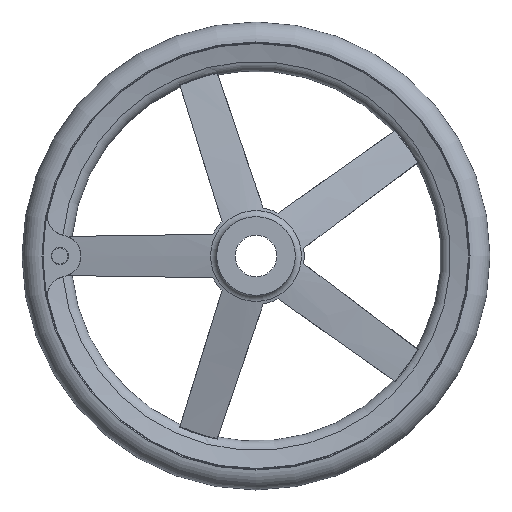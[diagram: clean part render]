
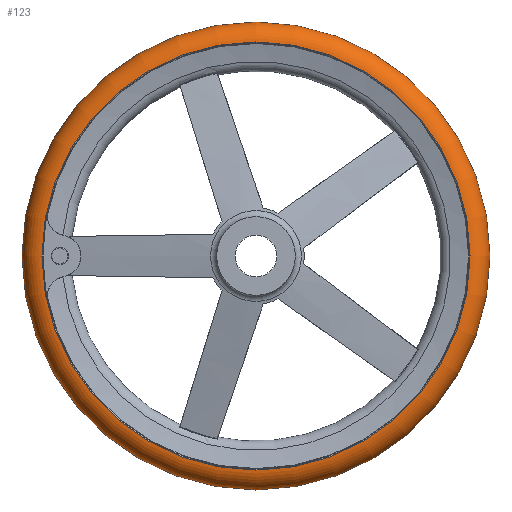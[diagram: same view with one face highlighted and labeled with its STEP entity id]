
A CAD part, left-side view. The second image highlights one B-rep face of the part: STEP entity #123.
In plain terms, the highlighted toroidal (fillet/blend) face has major radius 143.487 mm and minor radius 14.013 mm.
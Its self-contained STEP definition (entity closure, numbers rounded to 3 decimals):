
#123 = ADVANCED_FACE( '', ( #260, #261, #262 ), #263, .T. );
#260 = FACE_BOUND( '', #451, .T. );
#261 = FACE_OUTER_BOUND( '', #452, .T. );
#262 = FACE_OUTER_BOUND( '', #453, .T. );
#263 = TOROIDAL_SURFACE( '', #454, 143.487, 14.013 );
#451 = VERTEX_LOOP( '', #886 );
#452 = EDGE_LOOP( '', ( #887 ) );
#453 = EDGE_LOOP( '', ( #888 ) );
#454 = AXIS2_PLACEMENT_3D( '', #889, #890, #891 );
#886 = VERTEX_POINT( '', #1137 );
#887 = ORIENTED_EDGE( '', *, *, #1138, .T. );
#888 = ORIENTED_EDGE( '', *, *, #1043, .F. );
#889 = CARTESIAN_POINT( '', ( 42., 0., 0. ) );
#890 = DIRECTION( '', ( 1., 0., 0. ) );
#891 = DIRECTION( '', ( 0., 1., 0. ) );
#1043 = EDGE_CURVE( '', #1251, #1251, #1252, .T. );
#1137 = CARTESIAN_POINT( '', ( 42., 157.5, 0. ) );
#1138 = EDGE_CURVE( '', #1401, #1401, #1402, .T. );
#1251 = VERTEX_POINT( '', #1812 );
#1252 = CIRCLE( '', #1813, 144.083 );
#1401 = VERTEX_POINT( '', #2374 );
#1402 = CIRCLE( '', #2375, 144.083 );
#1812 = CARTESIAN_POINT( '', ( 56., 144.083, 0. ) );
#1813 = AXIS2_PLACEMENT_3D( '', #2470, #2471, #2472 );
#2374 = CARTESIAN_POINT( '', ( 28., 144.083, 0. ) );
#2375 = AXIS2_PLACEMENT_3D( '', #2590, #2591, #2592 );
#2470 = CARTESIAN_POINT( '', ( 56., 0., 0. ) );
#2471 = DIRECTION( '', ( 1., 0., 0. ) );
#2472 = DIRECTION( '', ( 0., 1., 0. ) );
#2590 = CARTESIAN_POINT( '', ( 28., 0., 0. ) );
#2591 = DIRECTION( '', ( 1., 0., 0. ) );
#2592 = DIRECTION( '', ( 0., 1., 0. ) );
